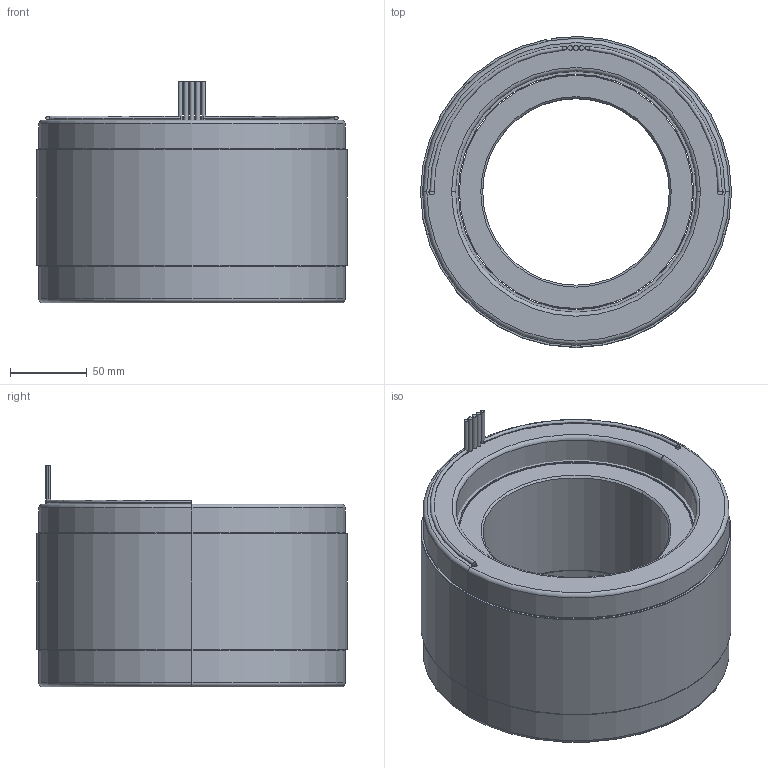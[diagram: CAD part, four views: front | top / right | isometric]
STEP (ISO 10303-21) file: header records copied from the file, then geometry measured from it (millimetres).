
FILE_DESCRIPTION (( 'STEP AP214' ), '1' );
FILE_NAME ('6100337-03.STEP', '2019-10-23T23:06:37', ( '' ), ( '' ), 'SwSTEP 2.0', 'SolidWorks 2016', '' );
FILE_SCHEMA (( 'AUTOMOTIVE_DESIGN' ));
Length unit declared in the file: millimetre
Products named in the file (11): 4450180-XX_4450180-03; 4600545-00; 4400090-00; 4150167-XX_4150167-03; 4500540-XX_4500540-03; COMP4500540-XX(COIL)_COMP4500540-03(COIL); 4250361-XX_4250361-03; 6100337-03
Assembly tree (10 placements, depth 4):
  6100337-03
    4250361-XX_4250361-03
      4150167-XX_4150167-03
    4500540-XX_4500540-03
      4450180-XX_4450180-03
        4450180-XX_4450180-03
        4400090-00
        4400090-00
        4600545-00
        4600545-00
      COMP4500540-XX(COIL)_COMP4500540-03(COIL)
Bounding box: 203.2 x 203.19 x 144.78 mm (x, y, z)
Volume: 2995584.3 mm3; surface area: 459376.1 mm2
Topology: 14 solids, 14 shells, 105 faces, 213 edges, 138 vertices
Faces by surface type: cylinder 59, plane 30, torus 12, cone 4
Entity records: 3320 total; most frequent: DIRECTION 605, CARTESIAN_POINT 472, ORIENTED_EDGE 426, AXIS2_PLACEMENT_3D 271, EDGE_CURVE 213, CIRCLE 150, VERTEX_POINT 138, EDGE_LOOP 121
